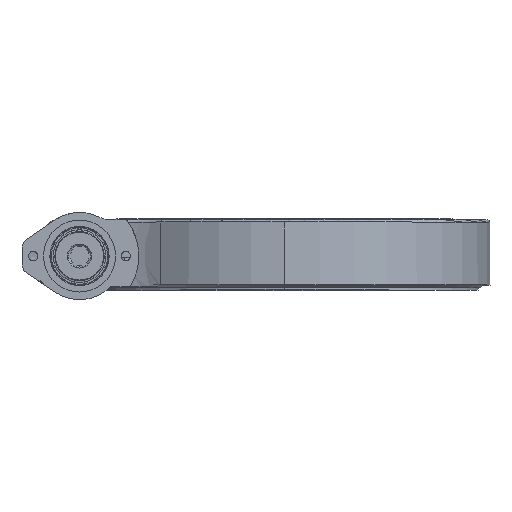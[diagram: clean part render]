
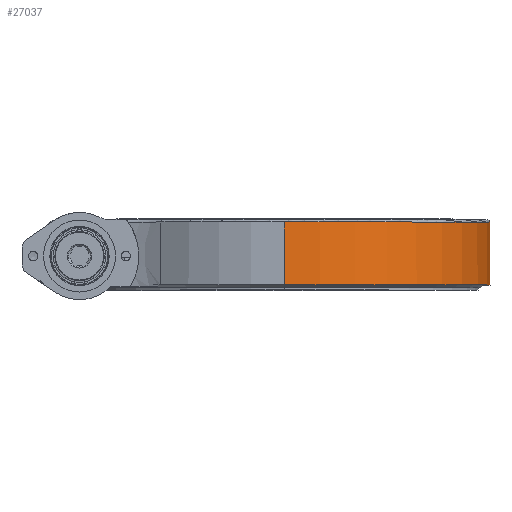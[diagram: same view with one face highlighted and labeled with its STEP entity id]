
A CAD part, top view. The second image highlights one B-rep face of the part: STEP entity #27037.
In plain terms, the highlighted conical face has half-angle 0.3 degrees and reference radius 235.5 mm.
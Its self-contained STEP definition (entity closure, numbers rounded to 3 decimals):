
#120 = CARTESIAN_POINT ( 'NONE',  ( 0., 42., 0. ) ) ;
#121 = FACE_OUTER_BOUND ( 'NONE', #16964, .T. ) ;
#122 = DIRECTION ( 'NONE',  ( 0., -1., 0. ) ) ;
#135 = DIRECTION ( 'NONE',  ( 0., 0., 1. ) ) ;
#5310 = VECTOR ( 'NONE', #13535, 1000. ) ;
#5331 = CIRCLE ( 'NONE', #5341, 235.516 ) ;
#5341 = AXIS2_PLACEMENT_3D ( 'NONE', #13555, #13556, #13557 ) ;
#5436 = CIRCLE ( 'NONE', #5458, 235.516 ) ;
#5458 = AXIS2_PLACEMENT_3D ( 'NONE', #13594, #13595, #13596 ) ;
#9311 = LINE ( 'NONE', #9312, #10293 ) ;
#9312 = CARTESIAN_POINT ( 'NONE',  ( 0., 42., -235.5 ) ) ;
#9320 = DIRECTION ( 'NONE',  ( 0., -1., -0.005 ) ) ;
#9464 = CONICAL_SURFACE ( 'NONE', #9716, 235.5, 0.005 ) ;
#9716 = AXIS2_PLACEMENT_3D ( 'NONE', #120, #122, #135 ) ;
#10293 = VECTOR ( 'NONE', #9320, 1000. ) ;
#11528 = EDGE_CURVE ( 'NONE', #35413, #35394, #13532, .T. ) ;
#11534 = EDGE_CURVE ( 'NONE', #34957, #34328, #5331, .T. ) ;
#11544 = EDGE_CURVE ( 'NONE', #34328, #35413, #5436, .T. ) ;
#12065 = EDGE_CURVE ( 'NONE', #35394, #34324, #14710, .T. ) ;
#13532 = LINE ( 'NONE', #13534, #5310 ) ;
#13534 = CARTESIAN_POINT ( 'NONE',  ( 0., 42., 235.5 ) ) ;
#13535 = DIRECTION ( 'NONE',  ( 0., -1., 0.005 ) ) ;
#13555 = CARTESIAN_POINT ( 'NONE',  ( 0., 39.016, 0. ) ) ;
#13556 = DIRECTION ( 'NONE',  ( 0., -1., 0. ) ) ;
#13557 = DIRECTION ( 'NONE',  ( 1., 0., 0. ) ) ;
#13594 = CARTESIAN_POINT ( 'NONE',  ( 0., 39.016, 0. ) ) ;
#13595 = DIRECTION ( 'NONE',  ( 0., -1., 0. ) ) ;
#13596 = DIRECTION ( 'NONE',  ( 1., 0., 0. ) ) ;
#14506 = AXIS2_PLACEMENT_3D ( 'NONE', #18913, #18914, #18915 ) ;
#14710 = CIRCLE ( 'NONE', #14506, 235.893 ) ;
#16964 = EDGE_LOOP ( 'NONE', ( #20827, #20825, #20826, #20623, #20618 ) ) ;
#18913 = CARTESIAN_POINT ( 'NONE',  ( 0., -33., 0. ) ) ;
#18914 = DIRECTION ( 'NONE',  ( 0., 1., 0. ) ) ;
#18915 = DIRECTION ( 'NONE',  ( 0., 0., -1. ) ) ;
#20618 = ORIENTED_EDGE ( 'NONE', *, *, #12065, .T. ) ;
#20623 = ORIENTED_EDGE ( 'NONE', *, *, #11528, .T. ) ;
#20825 = ORIENTED_EDGE ( 'NONE', *, *, #11534, .T. ) ;
#20826 = ORIENTED_EDGE ( 'NONE', *, *, #11544, .T. ) ;
#20827 = ORIENTED_EDGE ( 'NONE', *, *, #26518, .F. ) ;
#21396 = CARTESIAN_POINT ( 'NONE',  ( 0., -33., -235.893 ) ) ;
#21399 = CARTESIAN_POINT ( 'NONE',  ( 235.516, 39.016, 0. ) ) ;
#21654 = CARTESIAN_POINT ( 'NONE',  ( 0., 39.016, -235.516 ) ) ;
#21827 = CARTESIAN_POINT ( 'NONE',  ( 0., -33., 235.893 ) ) ;
#21837 = CARTESIAN_POINT ( 'NONE',  ( 0., 39.016, 235.516 ) ) ;
#26518 = EDGE_CURVE ( 'NONE', #34957, #34324, #9311, .T. ) ;
#27037 = ADVANCED_FACE ( 'NONE', ( #121 ), #9464, .T. ) ;
#34324 = VERTEX_POINT ( 'NONE', #21396 ) ;
#34328 = VERTEX_POINT ( 'NONE', #21399 ) ;
#34957 = VERTEX_POINT ( 'NONE', #21654 ) ;
#35394 = VERTEX_POINT ( 'NONE', #21827 ) ;
#35413 = VERTEX_POINT ( 'NONE', #21837 ) ;
